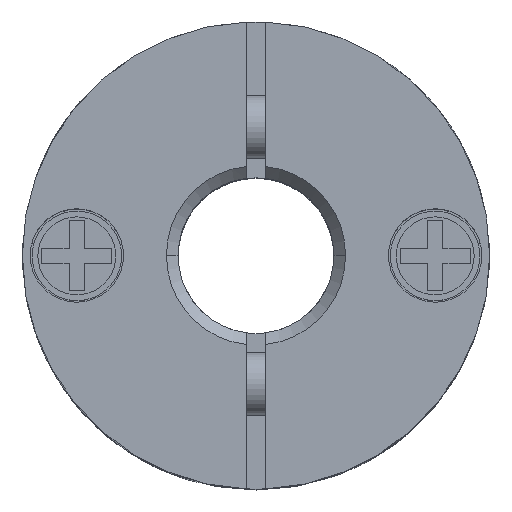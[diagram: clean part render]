
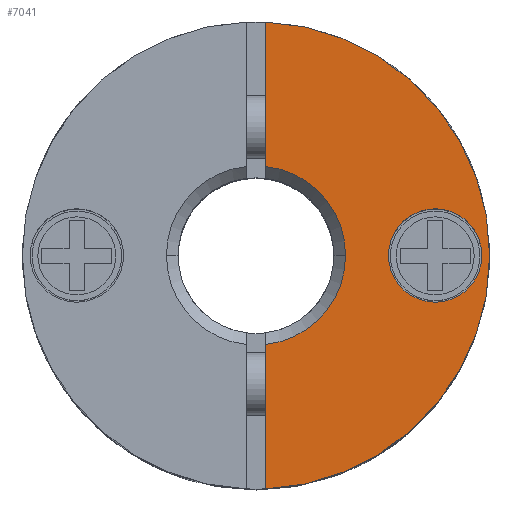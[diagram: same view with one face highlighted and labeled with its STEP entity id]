
A CAD part, top view. The second image highlights one B-rep face of the part: STEP entity #7041.
In plain terms, the highlighted planar face has unit normal (0, 0, 1).
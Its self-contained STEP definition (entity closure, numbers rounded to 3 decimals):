
#893=CARTESIAN_POINT('',(6.0,0.,6.2));
#894=VERTEX_POINT('',#893);
#901=CARTESIAN_POINT('',(0.25,-5.995,6.2));
#902=VERTEX_POINT('',#901);
#903=CARTESIAN_POINT('',(0.,0.,6.2));
#904=DIRECTION('',(0.0,0.0,-1.0));
#905=DIRECTION('',(-1.0,0.0,0.0));
#906=AXIS2_PLACEMENT_3D('',#903,#904,#905);
#907=CIRCLE('',#906,6.0);
#908=EDGE_CURVE('',#894,#902,#907,.T.);
#1104=CARTESIAN_POINT('',(2.3,0.,6.2));
#1105=VERTEX_POINT('',#1104);
#1113=CARTESIAN_POINT('',(0.25,-2.286,6.2));
#1114=VERTEX_POINT('',#1113);
#1128=CARTESIAN_POINT('',(0.,0.,6.2));
#1129=DIRECTION('',(0.0,0.0,1.0));
#1130=DIRECTION('',(1.0,0.0,0.0));
#1131=AXIS2_PLACEMENT_3D('',#1128,#1129,#1130);
#1132=CIRCLE('',#1131,2.3);
#1133=EDGE_CURVE('',#1114,#1105,#1132,.T.);
#1185=CARTESIAN_POINT('',(3.4,0.,6.2));
#1186=VERTEX_POINT('',#1185);
#1195=CARTESIAN_POINT('',(5.8,0.,6.2));
#1196=VERTEX_POINT('',#1195);
#1197=CARTESIAN_POINT('',(4.6,0.,6.2));
#1198=DIRECTION('',(0.0,0.0,-1.0));
#1199=DIRECTION('',(-1.0,0.0,0.0));
#1200=AXIS2_PLACEMENT_3D('',#1197,#1198,#1199);
#1201=CIRCLE('',#1200,1.2);
#1202=EDGE_CURVE('',#1196,#1186,#1201,.T.);
#6710=CARTESIAN_POINT('',(4.6,0.,6.2));
#6711=DIRECTION('',(0.0,0.0,-1.0));
#6712=DIRECTION('',(-1.0,0.0,0.0));
#6713=AXIS2_PLACEMENT_3D('',#6710,#6711,#6712);
#6714=CIRCLE('',#6713,1.2);
#6715=EDGE_CURVE('',#1186,#1196,#6714,.T.);
#6777=CARTESIAN_POINT('',(0.25,-2.286,6.2));
#6778=DIRECTION('',(0.0,-1.0,0.0));
#6779=VECTOR('',#6778,3.708);
#6780=LINE('',#6777,#6779);
#6781=EDGE_CURVE('',#1114,#902,#6780,.T.);
#6874=CARTESIAN_POINT('',(0.25,2.286,6.2));
#6875=VERTEX_POINT('',#6874);
#6889=CARTESIAN_POINT('',(0.25,5.995,6.2));
#6890=VERTEX_POINT('',#6889);
#6891=CARTESIAN_POINT('',(0.25,5.995,6.2));
#6892=DIRECTION('',(0.0,-1.0,0.0));
#6893=VECTOR('',#6892,3.708);
#6894=LINE('',#6891,#6893);
#6895=EDGE_CURVE('',#6890,#6875,#6894,.T.);
#7012=CARTESIAN_POINT('',(-0.545,0.,6.2));
#7013=DIRECTION('',(0.0,0.0,1.0));
#7014=DIRECTION('',(-1.0,0.0,0.0));
#7015=AXIS2_PLACEMENT_3D('',#7012,#7013,#7014);
#7016=PLANE('',#7015);
#7017=ORIENTED_EDGE('',*,*,#6895,.T.);
#7018=CARTESIAN_POINT('',(0.,0.,6.2));
#7019=DIRECTION('',(0.0,0.0,1.0));
#7020=DIRECTION('',(1.0,0.0,0.0));
#7021=AXIS2_PLACEMENT_3D('',#7018,#7019,#7020);
#7022=CIRCLE('',#7021,2.3);
#7023=EDGE_CURVE('',#1105,#6875,#7022,.T.);
#7024=ORIENTED_EDGE('',*,*,#7023,.F.);
#7025=ORIENTED_EDGE('',*,*,#1133,.F.);
#7026=ORIENTED_EDGE('',*,*,#6781,.T.);
#7027=ORIENTED_EDGE('',*,*,#908,.F.);
#7028=CARTESIAN_POINT('',(0.,0.,6.2));
#7029=DIRECTION('',(0.0,0.0,-1.0));
#7030=DIRECTION('',(-1.0,0.0,0.0));
#7031=AXIS2_PLACEMENT_3D('',#7028,#7029,#7030);
#7032=CIRCLE('',#7031,6.0);
#7033=EDGE_CURVE('',#6890,#894,#7032,.T.);
#7034=ORIENTED_EDGE('',*,*,#7033,.F.);
#7035=EDGE_LOOP('',(#7017,#7024,#7025,#7026,#7027,#7034));
#7036=FACE_OUTER_BOUND('',#7035,.T.);
#7037=ORIENTED_EDGE('',*,*,#6715,.T.);
#7038=ORIENTED_EDGE('',*,*,#1202,.T.);
#7039=EDGE_LOOP('',(#7037,#7038));
#7040=FACE_BOUND('',#7039,.T.);
#7041=ADVANCED_FACE('',(#7036,#7040),#7016,.T.);
